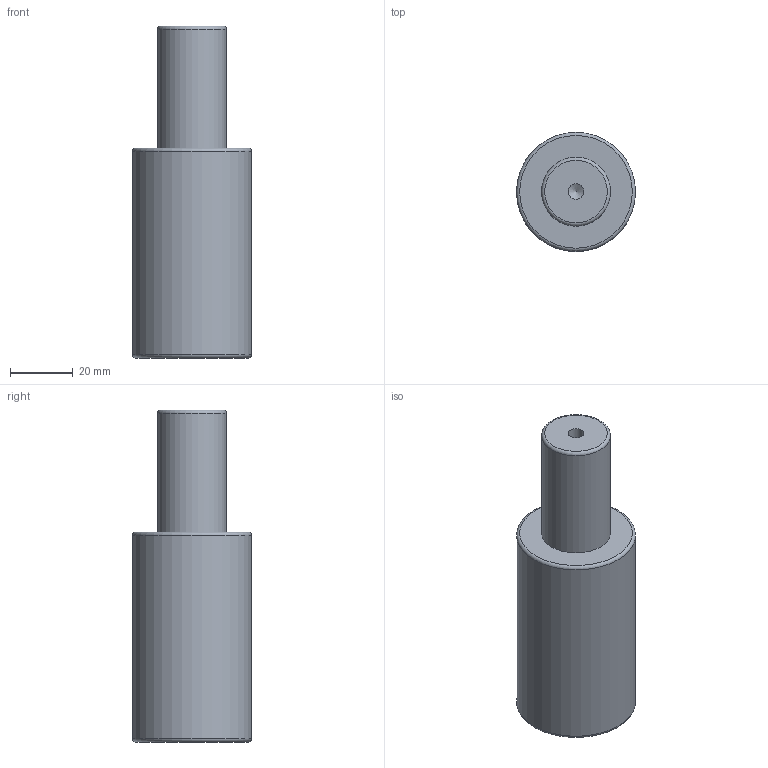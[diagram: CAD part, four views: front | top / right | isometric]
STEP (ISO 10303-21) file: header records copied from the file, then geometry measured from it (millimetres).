
FILE_DESCRIPTION(/* description */ (''),/* implementation_level */ '2;1');
FILE_NAME(/* name */ 'NV5-SMLX.38x38.stp',/* time_stamp */ '2018-08-31T16:08:35+02:00',/* author */ (''),/* organization */ (''),/* preprocessor_version */ 'ST-DEVELOPER v16',/* originating_system */ 'SIEMENS PLM Software NX 10.0',/* authorisation */ '');
FILE_SCHEMA (('AUTOMOTIVE_DESIGN { 1 0 10303 214 3 1 1 1 }'));
Length unit declared in the file: millimetre
Products named in the file (1): NV5-SMLX.38x38
Bounding box: 38 x 38 x 106 mm (x, y, z)
Volume: 89914.1 mm3; surface area: 13352.7 mm2
Topology: 1 solids, 1 shells, 12 faces, 24 edges, 15 vertices
Faces by surface type: cylinder 4, torus 3, plane 3, cone 2
Full cylindrical faces by diameter (mm): 5 x1, 6.8 x1, 22 x1, 38 x1
Entity records: 266 total; most frequent: DIRECTION 48, CARTESIAN_POINT 37, FACE_BOUND 24, AXIS2_PLACEMENT_3D 24, EDGE_LOOP 22, ORIENTED_EDGE 22, VERTEX_POINT 13, ADVANCED_FACE 12
